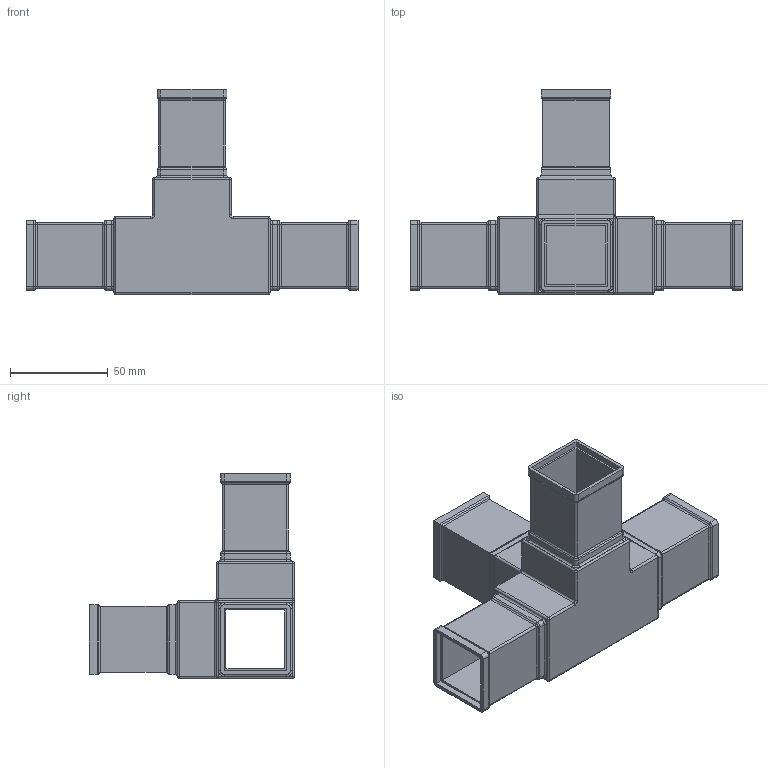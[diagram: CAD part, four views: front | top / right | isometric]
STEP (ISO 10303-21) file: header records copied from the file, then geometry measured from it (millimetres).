
FILE_DESCRIPTION (( 'STEP AP214' ), '1' );
FILE_NAME ('115.301.205.STEP', '2023-05-16T07:44:14', ( '' ), ( '' ), 'SwSTEP 2.0', 'SolidWorks 2021', '' );
FILE_SCHEMA (( 'AUTOMOTIVE_DESIGN' ));
Length unit declared in the file: millimetre
Products named in the file (1): 115.301.205
Bounding box: 170 x 105 x 105 mm (x, y, z)
Volume: 73760.9 mm3; surface area: 81589 mm2
Topology: 1 solids, 1 shells, 380 faces, 832 edges, 452 vertices
Faces by surface type: cylinder 152, plane 140, bspline 88
Entity records: 11316 total; most frequent: CARTESIAN_POINT 3439, ORIENTED_EDGE 1632, DIRECTION 1630, EDGE_CURVE 816, AXIS2_PLACEMENT_3D 575, LINE 480, VECTOR 480, VERTEX_POINT 452
